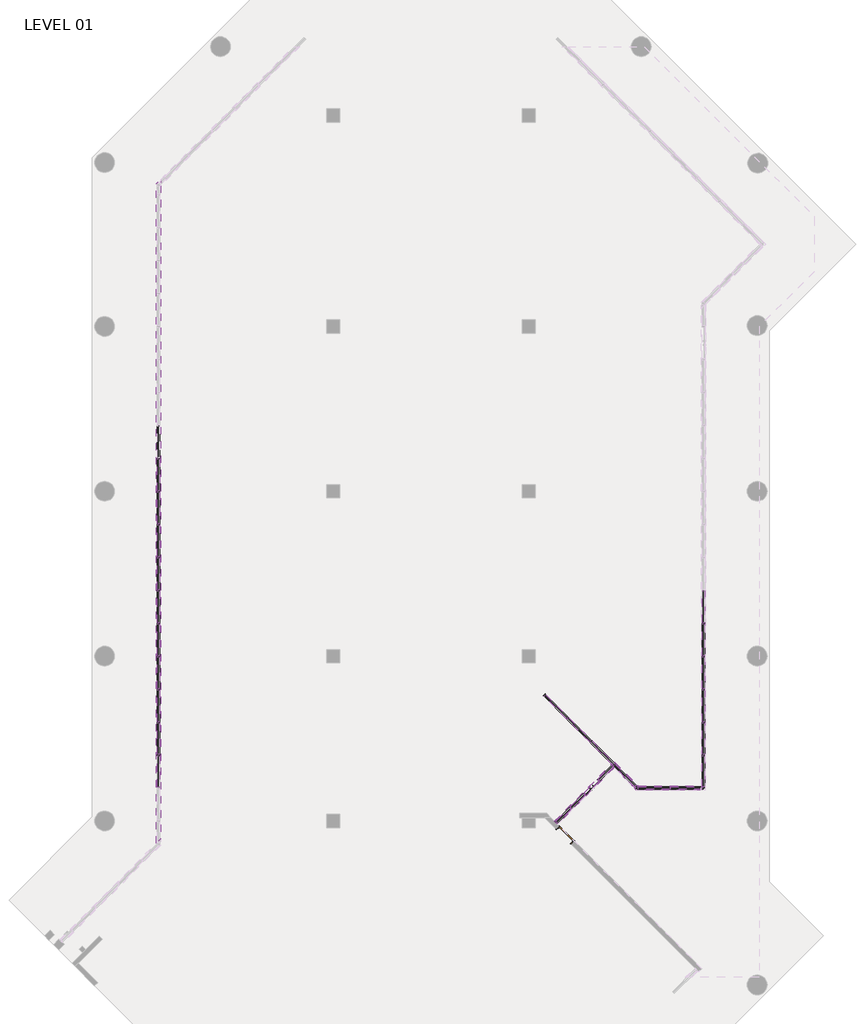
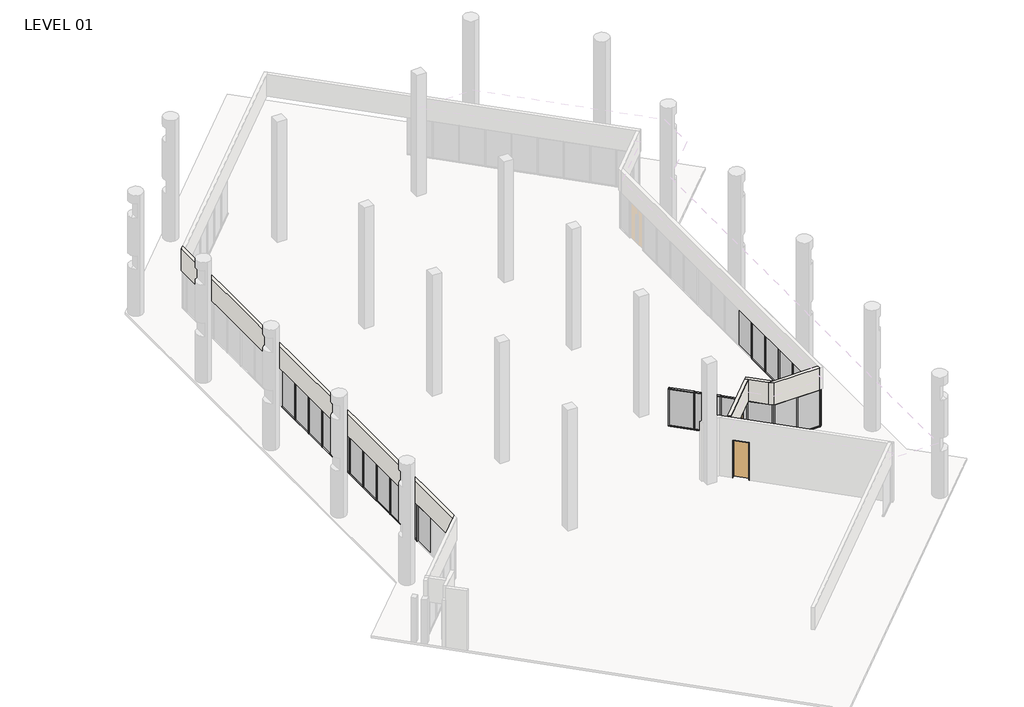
# One storey, part 3 of 24: 79 members, 26 plates, 4 walls, 2 doors.
"""IFC4 building model written with IfcOpenShell, lengths in millimetres."""

from ifc_helpers import new_model, si_unit, frame, origin, place, context, project, spatial, polyline, outline, extrude, faceted_brep, transform, mapped, element, save
from components import curtain_wall_dbl_glass_curtain_wall_dbl_glass_ad4eb2cc, door_ce57b39e, member_5247f267, member_e44af9ab, member_800970d4, member_cca1f9e6, member_ccf7f6e3, member_67d17f7f, member_d5560c68, member_35eb671e, member_74c9df78, plate_67294edd, plate_5a14c350, plate_4fb64caf, plate_748a28b9, plate_e3fa2cc7

model = new_model("IFC4")

# Units and contexts
model_context = context("Model", 3, world=origin())
ifc_project = project(units=[si_unit("LENGTHUNIT", "METRE", prefix="MILLI")], contexts=[model_context])

# Site, building, storey
site = spatial("IfcSite", under=ifc_project)
building = spatial("IfcBuilding", under=site)
storey = spatial("IfcBuildingStorey", under=building, Name="LEVEL 01", Elevation=0.0)

# Doors
placement = place(None, origin())
curtain_wall_dbl_glass_curtain_wall_dbl_glass_shape = curtain_wall_dbl_glass_curtain_wall_dbl_glass_ad4eb2cc(model_context)
element("IfcDoor", 1, ObjectType="Curtain Wall Dbl Glass : Curtain Wall Dbl Glass", at=placement, inside=storey, context=model_context, shape_type="MappedRepresentation", body=[
    mapped(curtain_wall_dbl_glass_curtain_wall_dbl_glass_shape, transform((-9768.7051367, 47649.2586372, 0.0), x_axis=(-0.7071067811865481, -0.7071067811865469, 0.0), y_axis=(0.7071067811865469, -0.7071067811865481, 0.0), z_axis=(0.0, 0.0, 1.0))),
])
door_shape = door_ce57b39e(model_context)
element("IfcDoor", 2, ObjectType="Single Flush-Full Flush-FF : 3'-0\" X 8'-6\"", at=placement, inside=storey, context=model_context, shape_type="MappedRepresentation", body=[
    mapped(door_shape, transform((-10987.4173728, 45432.4395471, 0.0), x_axis=(0.7071067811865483, -0.7071067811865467, 0.0), y_axis=(0.7071067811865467, 0.7071067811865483, 0.0), z_axis=(0.0, 0.0, 1.0))),
])

# Members
member_shape = member_5247f267(model_context)
element("IfcMember", 3, ObjectType="Rectangular Mullion : 2\" x 4.5\" rectangular", at=placement, inside=storey, context=model_context, shape_type="MappedRepresentation", body=[
    mapped(member_shape, transform((-29793.1847164, 52158.5675885, 2590.8), x_axis=(0.0, 0.0, 1.0), y_axis=(1.0, 0.0, 0.0), z_axis=(0.0, 1.0, 0.0))),
])
element("IfcMember", 4, ObjectType="Rectangular Mullion : 2\" x 4.5\" rectangular", at=placement, inside=storey, context=model_context, shape_type="MappedRepresentation", body=[
    mapped(member_shape, transform((-29793.1847164, 53682.5675885, 2590.8), x_axis=(0.0, 0.0, 1.0), y_axis=(1.0, 0.0, 0.0), z_axis=(0.0, 1.0, 0.0))),
])
element("IfcMember", 5, ObjectType="Rectangular Mullion : 2\" x 4.5\" rectangular", at=placement, inside=storey, context=model_context, shape_type="MappedRepresentation", body=[
    mapped(member_shape, transform((-29793.1847164, 58254.5675885, 2590.8), x_axis=(0.0, 0.0, 1.0), y_axis=(1.0, 0.0, 0.0), z_axis=(0.0, 1.0, 0.0))),
])
element("IfcMember", 6, ObjectType="Rectangular Mullion : 2\" x 4.5\" rectangular", at=placement, inside=storey, context=model_context, shape_type="MappedRepresentation", body=[
    mapped(member_shape, transform((-29793.1847164, 59778.5675885, 2590.8), x_axis=(0.0, 0.0, 1.0), y_axis=(1.0, 0.0, 0.0), z_axis=(0.0, 1.0, 0.0))),
])
element("IfcMember", 7, ObjectType="Rectangular Mullion : 2\" x 4.5\" rectangular", at=placement, inside=storey, context=model_context, shape_type="MappedRepresentation", body=[
    mapped(member_shape, transform((-29793.1847164, 62826.5675885, 2590.8), x_axis=(0.0, 0.0, 1.0), y_axis=(1.0, 0.0, 0.0), z_axis=(0.0, 1.0, 0.0))),
])
element("IfcMember", 8, ObjectType="Rectangular Mullion : 2\" x 4.5\" rectangular", at=placement, inside=storey, context=model_context, shape_type="MappedRepresentation", body=[
    mapped(member_shape, transform((-29793.1847164, 49110.5675885, 2590.8), x_axis=(0.0, 0.0, 1.0), y_axis=(1.0, 0.0, 0.0), z_axis=(0.0, 1.0, 0.0))),
])
element("IfcMember", 9, ObjectType="Rectangular Mullion : 2\" x 4.5\" rectangular", at=placement, inside=storey, context=model_context, shape_type="MappedRepresentation", body=[
    mapped(member_shape, transform((-29793.1847164, 50634.5675885, 2590.8), x_axis=(0.0, 0.0, 1.0), y_axis=(1.0, 0.0, 0.0), z_axis=(0.0, 1.0, 0.0))),
])
element("IfcMember", 10, ObjectType="Rectangular Mullion : 2\" x 4.5\" rectangular", at=placement, inside=storey, context=model_context, shape_type="MappedRepresentation", body=[
    mapped(member_shape, transform((-29793.1847164, 55206.5675885, 2590.8), x_axis=(0.0, 0.0, 1.0), y_axis=(1.0, 0.0, 0.0), z_axis=(0.0, 1.0, 0.0))),
])
element("IfcMember", 11, ObjectType="Rectangular Mullion : 2\" x 4.5\" rectangular", at=placement, inside=storey, context=model_context, shape_type="MappedRepresentation", body=[
    mapped(member_shape, transform((-29793.1847164, 56730.5675885, 2590.8), x_axis=(0.0, 0.0, 1.0), y_axis=(1.0, 0.0, 0.0), z_axis=(0.0, 1.0, 0.0))),
])
element("IfcMember", 12, ObjectType="Rectangular Mullion : 2\" x 4.5\" rectangular", at=placement, inside=storey, context=model_context, shape_type="MappedRepresentation", body=[
    mapped(member_shape, transform((-29793.1847164, 61302.5675885, 2590.8), x_axis=(0.0, 0.0, 1.0), y_axis=(1.0, 0.0, 0.0), z_axis=(0.0, 1.0, 0.0))),
])
element("IfcMember", 13, ObjectType="Rectangular Mullion : 2\" x 4.5\" rectangular", at=placement, inside=storey, context=model_context, shape_type="MappedRepresentation", body=[
    mapped(member_shape, transform((-4602.7347164, 53733.3675885, 2590.8), x_axis=(0.0, 0.0, 1.0), y_axis=(-1.0, 0.0, 0.0), z_axis=(0.0, -1.0, 0.0))),
])
element("IfcMember", 14, ObjectType="Rectangular Mullion : 2\" x 4.5\" rectangular", at=placement, inside=storey, context=model_context, shape_type="MappedRepresentation", body=[
    mapped(member_shape, transform((-4602.7347164, 52209.3675885, 2590.8), x_axis=(0.0, 0.0, 1.0), y_axis=(-1.0, 0.0, 0.0), z_axis=(0.0, -1.0, 0.0))),
])
element("IfcMember", 15, ObjectType="Rectangular Mullion : 2\" x 4.5\" rectangular", at=placement, inside=storey, context=model_context, shape_type="MappedRepresentation", body=[
    mapped(member_shape, transform((-4602.7347164, 49161.3675885, 2590.8), x_axis=(0.0, 0.0, 1.0), y_axis=(-1.0, 0.0, 0.0), z_axis=(0.0, -1.0, 0.0))),
])
element("IfcMember", 16, ObjectType="Rectangular Mullion : 2\" x 4.5\" rectangular", at=placement, inside=storey, context=model_context, shape_type="MappedRepresentation", body=[
    mapped(member_shape, transform((-4602.7347164, 55257.3675885, 2590.8), x_axis=(0.0, 0.0, 1.0), y_axis=(-1.0, 0.0, 0.0), z_axis=(0.0, -1.0, 0.0))),
])
element("IfcMember", 17, ObjectType="Rectangular Mullion : 2\" x 4.5\" rectangular", at=placement, inside=storey, context=model_context, shape_type="MappedRepresentation", body=[
    mapped(member_shape, transform((-4602.7347164, 50685.3675885, 2590.8), x_axis=(0.0, 0.0, 1.0), y_axis=(-1.0, 0.0, 0.0), z_axis=(0.0, -1.0, 0.0))),
])
element("IfcMember", 18, ObjectType="Rectangular Mullion : 2\" x 4.5\" rectangular", at=placement, inside=storey, context=model_context, shape_type="MappedRepresentation", body=[
    mapped(member_shape, transform((-10865.6664077, 50826.8992799, 2590.8), x_axis=(0.0, 0.0, 1.0), y_axis=(0.7071067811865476, 0.7071067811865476, 0.0), z_axis=(-0.7071067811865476, 0.7071067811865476, 0.0))),
])
element("IfcMember", 19, ObjectType="Rectangular Mullion : 2\" x 4.5\" rectangular", at=placement, inside=storey, context=model_context, shape_type="MappedRepresentation", body=[
    mapped(member_shape, transform((-9788.0356732, 49749.2685453, 2590.8), x_axis=(0.0, 0.0, 1.0), y_axis=(0.7071067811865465, 0.7071067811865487, 0.0), z_axis=(-0.7071067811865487, 0.7071067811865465, 0.0))),
])
element("IfcMember", 20, ObjectType="Rectangular Mullion : 2\" x 4.5\" rectangular", at=placement, inside=storey, context=model_context, shape_type="MappedRepresentation", body=[
    mapped(member_shape, transform((-29793.1847164, 52209.3675885, 0.0), x_axis=(0.0, 0.0, -1.0), y_axis=(1.0, 0.0, 0.0), z_axis=(0.0, -1.0, 0.0))),
])
element("IfcMember", 21, ObjectType="Rectangular Mullion : 2\" x 4.5\" rectangular", at=placement, inside=storey, context=model_context, shape_type="MappedRepresentation", body=[
    mapped(member_shape, transform((-29793.1847164, 53733.3675885, 0.0), x_axis=(0.0, 0.0, -1.0), y_axis=(1.0, 0.0, 0.0), z_axis=(0.0, -1.0, 0.0))),
])
element("IfcMember", 22, ObjectType="Rectangular Mullion : 2\" x 4.5\" rectangular", at=placement, inside=storey, context=model_context, shape_type="MappedRepresentation", body=[
    mapped(member_shape, transform((-29793.1847164, 58305.3675885, 0.0), x_axis=(0.0, 0.0, -1.0), y_axis=(1.0, 0.0, 0.0), z_axis=(0.0, -1.0, 0.0))),
])
element("IfcMember", 23, ObjectType="Rectangular Mullion : 2\" x 4.5\" rectangular", at=placement, inside=storey, context=model_context, shape_type="MappedRepresentation", body=[
    mapped(member_shape, transform((-29793.1847164, 59829.3675885, 0.0), x_axis=(0.0, 0.0, -1.0), y_axis=(1.0, 0.0, 0.0), z_axis=(0.0, -1.0, 0.0))),
])
element("IfcMember", 24, ObjectType="Rectangular Mullion : 2\" x 4.5\" rectangular", at=placement, inside=storey, context=model_context, shape_type="MappedRepresentation", body=[
    mapped(member_shape, transform((-29793.1847164, 62877.3675885, 0.0), x_axis=(0.0, 0.0, -1.0), y_axis=(1.0, 0.0, 0.0), z_axis=(0.0, -1.0, 0.0))),
])
element("IfcMember", 25, ObjectType="Rectangular Mullion : 2\" x 4.5\" rectangular", at=placement, inside=storey, context=model_context, shape_type="MappedRepresentation", body=[
    mapped(member_shape, transform((-29793.1847164, 49161.3675885, 0.0), x_axis=(0.0, 0.0, -1.0), y_axis=(1.0, 0.0, 0.0), z_axis=(0.0, -1.0, 0.0))),
])
element("IfcMember", 26, ObjectType="Rectangular Mullion : 2\" x 4.5\" rectangular", at=placement, inside=storey, context=model_context, shape_type="MappedRepresentation", body=[
    mapped(member_shape, transform((-29793.1847164, 50685.3675885, 0.0), x_axis=(0.0, 0.0, -1.0), y_axis=(1.0, 0.0, 0.0), z_axis=(0.0, -1.0, 0.0))),
])
element("IfcMember", 27, ObjectType="Rectangular Mullion : 2\" x 4.5\" rectangular", at=placement, inside=storey, context=model_context, shape_type="MappedRepresentation", body=[
    mapped(member_shape, transform((-29793.1847164, 55257.3675885, 0.0), x_axis=(0.0, 0.0, -1.0), y_axis=(1.0, 0.0, 0.0), z_axis=(0.0, -1.0, 0.0))),
])
element("IfcMember", 28, ObjectType="Rectangular Mullion : 2\" x 4.5\" rectangular", at=placement, inside=storey, context=model_context, shape_type="MappedRepresentation", body=[
    mapped(member_shape, transform((-29793.1847164, 56781.3675885, 0.0), x_axis=(0.0, 0.0, -1.0), y_axis=(1.0, 0.0, 0.0), z_axis=(0.0, -1.0, 0.0))),
])
element("IfcMember", 29, ObjectType="Rectangular Mullion : 2\" x 4.5\" rectangular", at=placement, inside=storey, context=model_context, shape_type="MappedRepresentation", body=[
    mapped(member_shape, transform((-29793.1847164, 61353.3675885, 0.0), x_axis=(0.0, 0.0, -1.0), y_axis=(1.0, 0.0, 0.0), z_axis=(0.0, -1.0, 0.0))),
])
element("IfcMember", 30, ObjectType="Rectangular Mullion : 2\" x 4.5\" rectangular", at=placement, inside=storey, context=model_context, shape_type="MappedRepresentation", body=[
    mapped(member_shape, transform((-4602.7347164, 53682.5675885, 0.0), x_axis=(0.0, 0.0, -1.0), y_axis=(-1.0, 0.0, 0.0), z_axis=(0.0, 1.0, 0.0))),
])
element("IfcMember", 31, ObjectType="Rectangular Mullion : 2\" x 4.5\" rectangular", at=placement, inside=storey, context=model_context, shape_type="MappedRepresentation", body=[
    mapped(member_shape, transform((-4602.7347164, 52158.5675885, 0.0), x_axis=(0.0, 0.0, -1.0), y_axis=(-1.0, 0.0, 0.0), z_axis=(0.0, 1.0, 0.0))),
])
element("IfcMember", 32, ObjectType="Rectangular Mullion : 2\" x 4.5\" rectangular", at=placement, inside=storey, context=model_context, shape_type="MappedRepresentation", body=[
    mapped(member_shape, transform((-4602.7347164, 55206.5675885, 0.0), x_axis=(0.0, 0.0, -1.0), y_axis=(-1.0, 0.0, 0.0), z_axis=(0.0, 1.0, 0.0))),
])
element("IfcMember", 33, ObjectType="Rectangular Mullion : 2\" x 4.5\" rectangular", at=placement, inside=storey, context=model_context, shape_type="MappedRepresentation", body=[
    mapped(member_shape, transform((-4602.7347164, 50634.5675885, 0.0), x_axis=(0.0, 0.0, -1.0), y_axis=(-1.0, 0.0, 0.0), z_axis=(0.0, 1.0, 0.0))),
])
element("IfcMember", 34, ObjectType="Rectangular Mullion : 2\" x 4.5\" rectangular", at=placement, inside=storey, context=model_context, shape_type="MappedRepresentation", body=[
    mapped(member_shape, transform((-8746.3259632, 48707.5588353, 0.0), x_axis=(0.0, 0.0, -1.0), y_axis=(0.7071067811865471, 0.7071067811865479, 0.0), z_axis=(0.7071067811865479, -0.7071067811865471, 0.0))),
])
element("IfcMember", 35, ObjectType="Rectangular Mullion : 2\" x 4.5\" rectangular", at=placement, inside=storey, context=model_context, shape_type="MappedRepresentation", body=[
    mapped(member_shape, transform((-9823.9566977, 49785.1895698, 0.0), x_axis=(0.0, 0.0, -1.0), y_axis=(0.7071067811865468, 0.7071067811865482, 0.0), z_axis=(0.7071067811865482, -0.7071067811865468, 0.0))),
])
member_2_shape = member_e44af9ab(model_context)
element("IfcMember", 36, ObjectType="Rectangular Mullion : 2\" x 4.5\" rectangular", at=placement, inside=storey, context=model_context, shape_type="MappedRepresentation", body=[
    mapped(member_2_shape, transform((-29793.1847164, 52183.9675885, 0.0), x_axis=(0.0, 1.0, 0.0), y_axis=(1.0, 0.0, 0.0), z_axis=(0.0, 0.0, -1.0))),
])
element("IfcMember", 37, ObjectType="Rectangular Mullion : 2\" x 4.5\" rectangular", at=placement, inside=storey, context=model_context, shape_type="MappedRepresentation", body=[
    mapped(member_2_shape, transform((-29793.1847164, 53707.9675885, 0.0), x_axis=(0.0, 1.0, 0.0), y_axis=(1.0, 0.0, 0.0), z_axis=(0.0, 0.0, -1.0))),
])
element("IfcMember", 38, ObjectType="Rectangular Mullion : 2\" x 4.5\" rectangular", at=placement, inside=storey, context=model_context, shape_type="MappedRepresentation", body=[
    mapped(member_2_shape, transform((-29793.1847164, 58279.9675885, 0.0), x_axis=(0.0, 1.0, 0.0), y_axis=(1.0, 0.0, 0.0), z_axis=(0.0, 0.0, -1.0))),
])
element("IfcMember", 39, ObjectType="Rectangular Mullion : 2\" x 4.5\" rectangular", at=placement, inside=storey, context=model_context, shape_type="MappedRepresentation", body=[
    mapped(member_2_shape, transform((-29793.1847164, 59803.9675885, 0.0), x_axis=(0.0, 1.0, 0.0), y_axis=(1.0, 0.0, 0.0), z_axis=(0.0, 0.0, -1.0))),
])
element("IfcMember", 40, ObjectType="Rectangular Mullion : 2\" x 4.5\" rectangular", at=placement, inside=storey, context=model_context, shape_type="MappedRepresentation", body=[
    mapped(member_2_shape, transform((-29793.1847164, 62851.9675885, 0.0), x_axis=(0.0, 1.0, 0.0), y_axis=(1.0, 0.0, 0.0), z_axis=(0.0, 0.0, -1.0))),
])
element("IfcMember", 41, ObjectType="Rectangular Mullion : 2\" x 4.5\" rectangular", at=placement, inside=storey, context=model_context, shape_type="MappedRepresentation", body=[
    mapped(member_2_shape, transform((-29793.1847164, 49135.9675885, 0.0), x_axis=(0.0, 1.0, 0.0), y_axis=(1.0, 0.0, 0.0), z_axis=(0.0, 0.0, -1.0))),
])
element("IfcMember", 42, ObjectType="Rectangular Mullion : 2\" x 4.5\" rectangular", at=placement, inside=storey, context=model_context, shape_type="MappedRepresentation", body=[
    mapped(member_2_shape, transform((-29793.1847164, 50659.9675885, 0.0), x_axis=(0.0, 1.0, 0.0), y_axis=(1.0, 0.0, 0.0), z_axis=(0.0, 0.0, -1.0))),
])
element("IfcMember", 43, ObjectType="Rectangular Mullion : 2\" x 4.5\" rectangular", at=placement, inside=storey, context=model_context, shape_type="MappedRepresentation", body=[
    mapped(member_2_shape, transform((-29793.1847164, 55231.9675885, 0.0), x_axis=(0.0, 1.0, 0.0), y_axis=(1.0, 0.0, 0.0), z_axis=(0.0, 0.0, -1.0))),
])
element("IfcMember", 44, ObjectType="Rectangular Mullion : 2\" x 4.5\" rectangular", at=placement, inside=storey, context=model_context, shape_type="MappedRepresentation", body=[
    mapped(member_2_shape, transform((-29793.1847164, 56755.9675885, 0.0), x_axis=(0.0, 1.0, 0.0), y_axis=(1.0, 0.0, 0.0), z_axis=(0.0, 0.0, -1.0))),
])
element("IfcMember", 45, ObjectType="Rectangular Mullion : 2\" x 4.5\" rectangular", at=placement, inside=storey, context=model_context, shape_type="MappedRepresentation", body=[
    mapped(member_2_shape, transform((-29793.1847164, 61327.9675885, 0.0), x_axis=(0.0, 1.0, 0.0), y_axis=(1.0, 0.0, 0.0), z_axis=(0.0, 0.0, -1.0))),
])
element("IfcMember", 46, ObjectType="Rectangular Mullion : 2\" x 4.5\" rectangular", at=placement, inside=storey, context=model_context, shape_type="MappedRepresentation", body=[
    mapped(member_2_shape, transform((-4602.7347164, 53707.9675885, 0.0), x_axis=(0.0, -1.0, 0.0), y_axis=(-1.0, 0.0, 0.0), z_axis=(0.0, 0.0, -1.0))),
])
element("IfcMember", 47, ObjectType="Rectangular Mullion : 2\" x 4.5\" rectangular", at=placement, inside=storey, context=model_context, shape_type="MappedRepresentation", body=[
    mapped(member_2_shape, transform((-4602.7347164, 52183.9675885, 0.0), x_axis=(0.0, -1.0, 0.0), y_axis=(-1.0, 0.0, 0.0), z_axis=(0.0, 0.0, -1.0))),
])
element("IfcMember", 48, ObjectType="Rectangular Mullion : 2\" x 4.5\" rectangular", at=placement, inside=storey, context=model_context, shape_type="MappedRepresentation", body=[
    mapped(member_2_shape, transform((-4602.7347164, 49135.9675885, 0.0), x_axis=(0.0, -1.0, 0.0), y_axis=(-1.0, 0.0, 0.0), z_axis=(0.0, 0.0, -1.0))),
])
element("IfcMember", 49, ObjectType="Rectangular Mullion : 2\" x 4.5\" rectangular", at=placement, inside=storey, context=model_context, shape_type="MappedRepresentation", body=[
    mapped(member_2_shape, transform((-4602.7347164, 55231.9675885, 0.0), x_axis=(0.0, -1.0, 0.0), y_axis=(-1.0, 0.0, 0.0), z_axis=(0.0, 0.0, -1.0))),
])
element("IfcMember", 50, ObjectType="Rectangular Mullion : 2\" x 4.5\" rectangular", at=placement, inside=storey, context=model_context, shape_type="MappedRepresentation", body=[
    mapped(member_2_shape, transform((-4602.7347164, 50659.9675885, 0.0), x_axis=(0.0, -1.0, 0.0), y_axis=(-1.0, 0.0, 0.0), z_axis=(0.0, 0.0, -1.0))),
])
element("IfcMember", 51, ObjectType="Rectangular Mullion : 2\" x 4.5\" rectangular", at=placement, inside=storey, context=model_context, shape_type="MappedRepresentation", body=[
    mapped(member_2_shape, transform((-6126.7347164, 47611.9675885, 0.0), x_axis=(-1.0, 0.0, 0.0), y_axis=(0.0, 1.0, 0.0), z_axis=(0.0, 0.0, -1.0))),
])
element("IfcMember", 52, ObjectType="Rectangular Mullion : 2\" x 4.5\" rectangular", at=placement, inside=storey, context=model_context, shape_type="MappedRepresentation", body=[
    mapped(member_2_shape, transform((-8728.3654509, 48689.598323, 0.0), x_axis=(-0.7071067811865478, 0.7071067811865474, 0.0), y_axis=(0.7071067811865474, 0.7071067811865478, 0.0), z_axis=(0.0, 0.0, -1.0))),
])
element("IfcMember", 53, ObjectType="Rectangular Mullion : 2\" x 4.5\" rectangular", at=placement, inside=storey, context=model_context, shape_type="MappedRepresentation", body=[
    mapped(member_2_shape, transform((-10883.62692, 50844.8597921, 0.0), x_axis=(-0.7071067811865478, 0.7071067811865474, 0.0), y_axis=(0.7071067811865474, 0.7071067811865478, 0.0), z_axis=(0.0, 0.0, -1.0))),
])
element("IfcMember", 54, ObjectType="Rectangular Mullion : 2\" x 4.5\" rectangular", at=placement, inside=storey, context=model_context, shape_type="MappedRepresentation", body=[
    mapped(member_2_shape, transform((-9805.9961855, 49767.2290576, 0.0), x_axis=(-0.7071067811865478, 0.7071067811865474, 0.0), y_axis=(0.7071067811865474, 0.7071067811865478, 0.0), z_axis=(0.0, 0.0, -1.0))),
])
element("IfcMember", 55, ObjectType="Rectangular Mullion : 2\" x 4.5\" rectangular", at=placement, inside=storey, context=model_context, shape_type="MappedRepresentation", body=[
    mapped(member_2_shape, transform((-9445.7075963, 47972.2561777, 0.0), x_axis=(-0.7071067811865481, -0.7071067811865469, 0.0), y_axis=(-0.7071067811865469, 0.7071067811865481, 0.0), z_axis=(0.0, 0.0, -1.0))),
])
element("IfcMember", 56, ObjectType="Rectangular Mullion : 2\" x 4.5\" rectangular", at=placement, inside=storey, context=model_context, shape_type="MappedRepresentation", body=[
    mapped(member_2_shape, transform((-10738.8644778, 46679.0992962, 0.0), x_axis=(-0.7071067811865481, -0.7071067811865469, 0.0), y_axis=(-0.7071067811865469, 0.7071067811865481, 0.0), z_axis=(0.0, 0.0, -1.0))),
])
member_3_shape = member_800970d4(model_context)
element("IfcMember", 57, ObjectType="Rectangular Mullion : 2\" x 4.5\" rectangular", at=placement, inside=storey, context=model_context, shape_type="MappedRepresentation", body=[
    mapped(member_3_shape, transform((-4602.7347164, 47611.9675885, 0.0), x_axis=(0.0, -1.0, 0.0), y_axis=(-1.0, 0.0, 0.0), z_axis=(0.0, 0.0, -1.0))),
])
element("IfcMember", 58, ObjectType="Rectangular Mullion : 2\" x 4.5\" rectangular", at=placement, inside=storey, context=model_context, shape_type="MappedRepresentation", body=[
    mapped(member_3_shape, transform((-7650.7347164, 47611.9675885, 0.0), x_axis=(-1.0, 0.0, 0.0), y_axis=(0.0, 1.0, 0.0), z_axis=(0.0, 0.0, -1.0))),
])
element("IfcMember", 59, ObjectType="Rectangular Mullion : 2\" x 4.5\" rectangular", at=placement, inside=storey, context=model_context, shape_type="MappedRepresentation", body=[
    mapped(member_3_shape, transform((-11961.2576545, 51922.4905266, 0.0), x_axis=(-0.7071067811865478, 0.7071067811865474, 0.0), y_axis=(0.7071067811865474, 0.7071067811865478, 0.0), z_axis=(0.0, 0.0, -1.0))),
])
element("IfcMember", 60, ObjectType="Rectangular Mullion : 2\" x 4.5\" rectangular", at=placement, inside=storey, context=model_context, shape_type="MappedRepresentation", body=[
    mapped(member_3_shape, transform((-11414.6287509, 46003.3350231, 0.0), x_axis=(-0.7071067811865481, -0.7071067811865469, 0.0), y_axis=(-0.7071067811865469, 0.7071067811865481, 0.0), z_axis=(0.0, 0.0, -1.0))),
])
element("IfcMember", 61, ObjectType="Rectangular Mullion : 2\" x 4.5\" rectangular", at=placement, inside=storey, context=model_context, shape_type="MappedRepresentation", body=[
    mapped(member_3_shape, transform((-4602.7347164, 47611.9675885, 2590.8), x_axis=(1.0, 0.0, 0.0), y_axis=(0.0, 1.0, 0.0), z_axis=(0.0, 0.0, 1.0))),
])
element("IfcMember", 62, ObjectType="Rectangular Mullion : 2\" x 4.5\" rectangular", at=placement, inside=storey, context=model_context, shape_type="MappedRepresentation", body=[
    mapped(member_3_shape, transform((-7650.7347164, 47611.9675885, 2590.8), x_axis=(0.7071067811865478, -0.7071067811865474, 0.0), y_axis=(0.7071067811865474, 0.7071067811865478, 0.0), z_axis=(0.0, 0.0, 1.0))),
])
element("IfcMember", 63, ObjectType="Rectangular Mullion : 2\" x 4.5\" rectangular", at=placement, inside=storey, context=model_context, shape_type="MappedRepresentation", body=[
    mapped(member_3_shape, transform((-8768.7766035, 48649.1871705, 2590.8), x_axis=(0.7071067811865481, 0.7071067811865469, 0.0), y_axis=(-0.7071067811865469, 0.7071067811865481, 0.0), z_axis=(0.0, 0.0, 1.0))),
])
member_4_shape = member_cca1f9e6(model_context)
element("IfcMember", 64, ObjectType="Rectangular Mullion : 2\" x 4.5\" rectangular", at=placement, inside=storey, context=model_context, shape_type="MappedRepresentation", body=[
    mapped(member_4_shape, transform((-4602.7347164, 47662.7675885, 2590.8), x_axis=(0.0, 0.0, 1.0), y_axis=(-1.0, 0.0, 0.0), z_axis=(0.0, -1.0, 0.0))),
])
element("IfcMember", 65, ObjectType="Rectangular Mullion : 2\" x 4.5\" rectangular", at=placement, inside=storey, context=model_context, shape_type="MappedRepresentation", body=[
    mapped(member_4_shape, transform((-7599.9347164, 47611.9675885, 2590.8), x_axis=(0.0, 0.0, 1.0), y_axis=(0.0, 1.0, 0.0), z_axis=(-1.0, 0.0, 0.0))),
])
element("IfcMember", 66, ObjectType="Rectangular Mullion : 2\" x 4.5\" rectangular", at=placement, inside=storey, context=model_context, shape_type="MappedRepresentation", body=[
    mapped(member_4_shape, transform((-6101.3347164, 47611.9675885, 2590.8), x_axis=(0.0, 0.0, 1.0), y_axis=(0.0, 1.0, 0.0), z_axis=(-1.0, 0.0, 0.0))),
])
element("IfcMember", 67, ObjectType="Rectangular Mullion : 2\" x 4.5\" rectangular", at=placement, inside=storey, context=model_context, shape_type="MappedRepresentation", body=[
    mapped(member_4_shape, transform((-11925.33663, 51886.5695021, 2590.8), x_axis=(0.0, 0.0, 1.0), y_axis=(0.7071067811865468, 0.7071067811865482, 0.0), z_axis=(-0.7071067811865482, 0.7071067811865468, 0.0))),
])
element("IfcMember", 68, ObjectType="Rectangular Mullion : 2\" x 4.5\" rectangular", at=placement, inside=storey, context=model_context, shape_type="MappedRepresentation", body=[
    mapped(member_4_shape, transform((-8710.4049387, 48671.6378108, 2590.8), x_axis=(0.0, 0.0, 1.0), y_axis=(0.7071067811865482, 0.7071067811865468, 0.0), z_axis=(-0.7071067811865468, 0.7071067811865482, 0.0))),
])
member_5_shape = member_ccf7f6e3(model_context)
element("IfcMember", 69, ObjectType="Rectangular Mullion : 2\" x 4.5\" rectangular", at=placement, inside=storey, context=model_context, shape_type="MappedRepresentation", body=[
    mapped(member_5_shape, transform((-4653.5347164, 47611.9675885, 0.0), x_axis=(0.0, 0.0, -1.0), y_axis=(0.0, 1.0, 0.0), z_axis=(1.0, 0.0, 0.0))),
])
element("IfcMember", 70, ObjectType="Rectangular Mullion : 2\" x 4.5\" rectangular", at=placement, inside=storey, context=model_context, shape_type="MappedRepresentation", body=[
    mapped(member_5_shape, transform((-4602.7347164, 49110.5675885, 0.0), x_axis=(0.0, 0.0, -1.0), y_axis=(-1.0, 0.0, 0.0), z_axis=(0.0, 1.0, 0.0))),
])
element("IfcMember", 71, ObjectType="Rectangular Mullion : 2\" x 4.5\" rectangular", at=placement, inside=storey, context=model_context, shape_type="MappedRepresentation", body=[
    mapped(member_5_shape, transform((-6152.1347164, 47611.9675885, 0.0), x_axis=(0.0, 0.0, -1.0), y_axis=(0.0, 1.0, 0.0), z_axis=(1.0, 0.0, 0.0))),
])
element("IfcMember", 72, ObjectType="Rectangular Mullion : 2\" x 4.5\" rectangular", at=placement, inside=storey, context=model_context, shape_type="MappedRepresentation", body=[
    mapped(member_5_shape, transform((-7686.6557409, 47647.888613, 0.0), x_axis=(0.0, 0.0, -1.0), y_axis=(0.7071067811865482, 0.7071067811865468, 0.0), z_axis=(0.7071067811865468, -0.7071067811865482, 0.0))),
])
element("IfcMember", 73, ObjectType="Rectangular Mullion : 2\" x 4.5\" rectangular", at=placement, inside=storey, context=model_context, shape_type="MappedRepresentation", body=[
    mapped(member_5_shape, transform((-10901.5874322, 50862.8203043, 0.0), x_axis=(0.0, 0.0, -1.0), y_axis=(0.7071067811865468, 0.7071067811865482, 0.0), z_axis=(0.7071067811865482, -0.7071067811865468, 0.0))),
])
member_6_shape = member_67d17f7f(model_context)
element("IfcMember", 74, ObjectType="Rectangular Mullion : 2\" x 4.5\" rectangular", at=placement, inside=storey, context=model_context, shape_type="MappedRepresentation", body=[
    mapped(member_6_shape, transform((-11378.7077264, 46039.2560476, 2590.8), x_axis=(0.0, 0.0, 1.0), y_axis=(-0.7071067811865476, 0.7071067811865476, 0.0), z_axis=(-0.7071067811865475, -0.7071067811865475, 0.0))),
])
member_7_shape = member_d5560c68(model_context)
element("IfcMember", 75, ObjectType="Rectangular Mullion : 2\" x 4.5\" rectangular", at=placement, inside=storey, context=model_context, shape_type="MappedRepresentation", body=[
    mapped(member_7_shape, transform((-8804.697628, 48613.266146, 0.0), x_axis=(0.0, 0.0, -1.0), y_axis=(-0.7071067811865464, 0.7071067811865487, 0.0), z_axis=(0.7071067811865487, 0.7071067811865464, 0.0))),
])
element("IfcMember", 76, ObjectType="Rectangular Mullion : 2\" x 4.5\" rectangular", at=placement, inside=storey, context=model_context, shape_type="MappedRepresentation", body=[
    mapped(member_7_shape, transform((-9427.7470841, 47990.2166899, 2590.8), x_axis=(0.0, 0.0, 1.0), y_axis=(-0.7071067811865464, 0.7071067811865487, 0.0), z_axis=(-0.7071067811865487, -0.7071067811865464, 0.0))),
])
element("IfcMember", 77, ObjectType="Rectangular Mullion : 2\" x 4.5\" rectangular", at=placement, inside=storey, context=model_context, shape_type="MappedRepresentation", body=[
    mapped(member_6_shape, transform((-10756.82499, 46661.138784, 0.0), x_axis=(0.0, 0.0, -1.0), y_axis=(-0.7071067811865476, 0.7071067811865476, 0.0), z_axis=(0.7071067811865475, 0.7071067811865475, 0.0))),
])
element("IfcMember", 78, ObjectType="Rectangular Mullion : 2\" x 4.5\" rectangular", at=placement, inside=storey, context=model_context, shape_type="MappedRepresentation", body=[
    mapped(member_2_shape, transform((-10091.7026772, 47326.2610968, 0.0), x_axis=(-0.7071067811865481, -0.7071067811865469, 0.0), y_axis=(-0.7071067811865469, 0.7071067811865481, 0.0), z_axis=(0.0, 0.0, -1.0))),
])
member_8_shape = member_35eb671e(model_context)
element("IfcMember", 79, ObjectType="Rectangular Mullion : 2\" x 4.5\" rectangular", at=placement, inside=storey, context=model_context, shape_type="MappedRepresentation", body=[
    mapped(member_8_shape, transform((-10720.9039655, 46697.0598085, 2590.8), x_axis=(0.0, 0.0, 1.0), y_axis=(-0.7071067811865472, 0.7071067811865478, 0.0), z_axis=(-0.7071067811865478, -0.7071067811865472, 0.0))),
])
member_9_shape = member_74c9df78(model_context)
element("IfcMember", 80, ObjectType="Rectangular Mullion : 2\" x 4.5\" rectangular", at=placement, inside=storey, context=model_context, shape_type="MappedRepresentation", body=[
    mapped(member_9_shape, transform((-10073.7421649, 47344.221609, 2590.8), x_axis=(0.0, 0.0, 1.0), y_axis=(-0.7071067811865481, 0.707106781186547, 0.0), z_axis=(-0.707106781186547, -0.7071067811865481, 0.0))),
])
element("IfcMember", 81, ObjectType="Rectangular Mullion : 2\" x 4.5\" rectangular", at=placement, inside=storey, context=model_context, shape_type="MappedRepresentation", body=[
    mapped(member_8_shape, transform((-10109.6631894, 47308.3005846, 0.0), x_axis=(0.0, 0.0, -1.0), y_axis=(-0.7071067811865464, 0.7071067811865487, 0.0), z_axis=(0.7071067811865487, 0.7071067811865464, 0.0))),
])

# Plates
plate_shape = plate_67294edd(model_context)
element("IfcPlate", 82, ObjectType="System Panel : 1/4\" Glass", at=placement, inside=storey, context=model_context, shape_type="MappedRepresentation", body=[
    mapped(plate_shape, transform((-29793.1847164, 48373.9675885, 50.8), x_axis=(0.0, 1.0, 0.0), y_axis=(-1.0, 0.0, 0.0), z_axis=(0.0, 0.0, 1.0))),
])
element("IfcPlate", 83, ObjectType="System Panel : 1/4\" Glass", at=placement, inside=storey, context=model_context, shape_type="MappedRepresentation", body=[
    mapped(plate_shape, transform((-29793.1847164, 52945.9675885, 50.8), x_axis=(0.0, 1.0, 0.0), y_axis=(-1.0, 0.0, 0.0), z_axis=(0.0, 0.0, 1.0))),
])
element("IfcPlate", 84, ObjectType="System Panel : 1/4\" Glass", at=placement, inside=storey, context=model_context, shape_type="MappedRepresentation", body=[
    mapped(plate_shape, transform((-29793.1847164, 54469.9675885, 50.8), x_axis=(0.0, 1.0, 0.0), y_axis=(-1.0, 0.0, 0.0), z_axis=(0.0, 0.0, 1.0))),
])
element("IfcPlate", 85, ObjectType="System Panel : 1/4\" Glass", at=placement, inside=storey, context=model_context, shape_type="MappedRepresentation", body=[
    mapped(plate_shape, transform((-29793.1847164, 59041.9675885, 50.8), x_axis=(0.0, 1.0, 0.0), y_axis=(-1.0, 0.0, 0.0), z_axis=(0.0, 0.0, 1.0))),
])
element("IfcPlate", 86, ObjectType="System Panel : 1/4\" Glass", at=placement, inside=storey, context=model_context, shape_type="MappedRepresentation", body=[
    mapped(plate_shape, transform((-29793.1847164, 60565.9675885, 50.8), x_axis=(0.0, 1.0, 0.0), y_axis=(-1.0, 0.0, 0.0), z_axis=(0.0, 0.0, 1.0))),
])
element("IfcPlate", 87, ObjectType="System Panel : 1/4\" Glass", at=placement, inside=storey, context=model_context, shape_type="MappedRepresentation", body=[
    mapped(plate_shape, transform((-29793.1847164, 63613.9675885, 50.8), x_axis=(0.0, 1.0, 0.0), y_axis=(-1.0, 0.0, 0.0), z_axis=(0.0, 0.0, 1.0))),
])
element("IfcPlate", 88, ObjectType="System Panel : 1/4\" Glass", at=placement, inside=storey, context=model_context, shape_type="MappedRepresentation", body=[
    mapped(plate_shape, transform((-29793.1847164, 49897.9675885, 50.8), x_axis=(0.0, 1.0, 0.0), y_axis=(-1.0, 0.0, 0.0), z_axis=(0.0, 0.0, 1.0))),
])
element("IfcPlate", 89, ObjectType="System Panel : 1/4\" Glass", at=placement, inside=storey, context=model_context, shape_type="MappedRepresentation", body=[
    mapped(plate_shape, transform((-29793.1847164, 51421.9675885, 50.8), x_axis=(0.0, 1.0, 0.0), y_axis=(-1.0, 0.0, 0.0), z_axis=(0.0, 0.0, 1.0))),
])
element("IfcPlate", 90, ObjectType="System Panel : 1/4\" Glass", at=placement, inside=storey, context=model_context, shape_type="MappedRepresentation", body=[
    mapped(plate_shape, transform((-29793.1847164, 55993.9675885, 50.8), x_axis=(0.0, 1.0, 0.0), y_axis=(-1.0, 0.0, 0.0), z_axis=(0.0, 0.0, 1.0))),
])
element("IfcPlate", 91, ObjectType="System Panel : 1/4\" Glass", at=placement, inside=storey, context=model_context, shape_type="MappedRepresentation", body=[
    mapped(plate_shape, transform((-29793.1847164, 57517.9675885, 50.8), x_axis=(0.0, 1.0, 0.0), y_axis=(-1.0, 0.0, 0.0), z_axis=(0.0, 0.0, 1.0))),
])
element("IfcPlate", 92, ObjectType="System Panel : 1/4\" Glass", at=placement, inside=storey, context=model_context, shape_type="MappedRepresentation", body=[
    mapped(plate_shape, transform((-29793.1847164, 62089.9675885, 50.8), x_axis=(0.0, 1.0, 0.0), y_axis=(-1.0, 0.0, 0.0), z_axis=(0.0, 0.0, 1.0))),
])
element("IfcPlate", 93, ObjectType="System Panel : 1/4\" Glass", at=placement, inside=storey, context=model_context, shape_type="MappedRepresentation", body=[
    mapped(plate_shape, transform((-4602.7347164, 55993.9675885, 50.8), x_axis=(0.0, -1.0, 0.0), y_axis=(1.0, 0.0, 0.0), z_axis=(0.0, 0.0, 1.0))),
])
element("IfcPlate", 94, ObjectType="System Panel : 1/4\" Glass", at=placement, inside=storey, context=model_context, shape_type="MappedRepresentation", body=[
    mapped(plate_shape, transform((-4602.7347164, 52945.9675885, 50.8), x_axis=(0.0, -1.0, 0.0), y_axis=(1.0, 0.0, 0.0), z_axis=(0.0, 0.0, 1.0))),
])
element("IfcPlate", 95, ObjectType="System Panel : 1/4\" Glass", at=placement, inside=storey, context=model_context, shape_type="MappedRepresentation", body=[
    mapped(plate_shape, transform((-4602.7347164, 51421.9675885, 50.8), x_axis=(0.0, -1.0, 0.0), y_axis=(1.0, 0.0, 0.0), z_axis=(0.0, 0.0, 1.0))),
])
element("IfcPlate", 96, ObjectType="System Panel : 1/4\" Glass", at=placement, inside=storey, context=model_context, shape_type="MappedRepresentation", body=[
    mapped(plate_shape, transform((-4602.7347164, 54469.9675885, 50.8), x_axis=(0.0, -1.0, 0.0), y_axis=(1.0, 0.0, 0.0), z_axis=(0.0, 0.0, 1.0))),
])
element("IfcPlate", 97, ObjectType="System Panel : 1/4\" Glass", at=placement, inside=storey, context=model_context, shape_type="MappedRepresentation", body=[
    mapped(plate_shape, transform((-4602.7347164, 49897.9675885, 50.8), x_axis=(0.0, -1.0, 0.0), y_axis=(1.0, 0.0, 0.0), z_axis=(0.0, 0.0, 1.0))),
])
element("IfcPlate", 98, ObjectType="System Panel : 1/4\" Glass", at=placement, inside=storey, context=model_context, shape_type="MappedRepresentation", body=[
    mapped(plate_shape, transform((-9267.1808182, 49228.4136903, 50.8), x_axis=(-0.7071067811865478, 0.7071067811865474, 0.0), y_axis=(-0.7071067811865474, -0.7071067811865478, 0.0), z_axis=(0.0, 0.0, 1.0))),
])
element("IfcPlate", 99, ObjectType="System Panel : 1/4\" Glass", at=placement, inside=storey, context=model_context, shape_type="MappedRepresentation", body=[
    mapped(plate_shape, transform((-10344.8115527, 50306.0444248, 50.8), x_axis=(-0.7071067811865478, 0.7071067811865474, 0.0), y_axis=(-0.7071067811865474, -0.7071067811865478, 0.0), z_axis=(0.0, 0.0, 1.0))),
])
plate_2_shape = plate_5a14c350(model_context)
element("IfcPlate", 100, ObjectType="System Panel : 1/4\" Glass", at=placement, inside=storey, context=model_context, shape_type="MappedRepresentation", body=[
    mapped(plate_2_shape, transform((-5377.4347164, 47611.9675885, 50.8), x_axis=(-1.0, 0.0, 0.0), y_axis=(0.0, -1.0, 0.0), z_axis=(0.0, 0.0, 1.0))),
])
element("IfcPlate", 101, ObjectType="System Panel : 1/4\" Glass", at=placement, inside=storey, context=model_context, shape_type="MappedRepresentation", body=[
    mapped(plate_2_shape, transform((-6876.0347164, 47611.9675885, 50.8), x_axis=(-1.0, 0.0, 0.0), y_axis=(0.0, -1.0, 0.0), z_axis=(0.0, 0.0, 1.0))),
])
element("IfcPlate", 102, ObjectType="System Panel : 1/4\" Glass", at=placement, inside=storey, context=model_context, shape_type="MappedRepresentation", body=[
    mapped(plate_2_shape, transform((-4602.7347164, 48386.6675885, 50.8), x_axis=(0.0, -1.0, 0.0), y_axis=(1.0, 0.0, 0.0), z_axis=(0.0, 0.0, 1.0))),
])
element("IfcPlate", 103, ObjectType="System Panel : 1/4\" Glass", at=placement, inside=storey, context=model_context, shape_type="MappedRepresentation", body=[
    mapped(plate_2_shape, transform((-8198.5303398, 48159.7632119, 50.8), x_axis=(-0.7071067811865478, 0.7071067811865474, 0.0), y_axis=(-0.7071067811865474, -0.7071067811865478, 0.0), z_axis=(0.0, 0.0, 1.0))),
])
element("IfcPlate", 104, ObjectType="System Panel : 1/4\" Glass", at=placement, inside=storey, context=model_context, shape_type="MappedRepresentation", body=[
    mapped(plate_2_shape, transform((-11413.4620311, 51374.6949032, 50.8), x_axis=(-0.7071067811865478, 0.7071067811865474, 0.0), y_axis=(-0.7071067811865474, -0.7071067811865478, 0.0), z_axis=(0.0, 0.0, 1.0))),
])
plate_3_shape = plate_4fb64caf(model_context)
element("IfcPlate", 105, ObjectType="System Panel : 1/4\" Glass", at=placement, inside=storey, context=model_context, shape_type="MappedRepresentation", body=[
    mapped(plate_3_shape, transform((-9116.222356, 48301.741418, 50.8), x_axis=(-0.7071067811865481, -0.7071067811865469, 0.0), y_axis=(0.7071067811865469, -0.7071067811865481, 0.0), z_axis=(0.0, 0.0, 1.0))),
])
plate_4_shape = plate_748a28b9(model_context)
element("IfcPlate", 106, ObjectType="System Panel : 1/4\" Glass", at=placement, inside=storey, context=model_context, shape_type="MappedRepresentation", body=[
    mapped(plate_4_shape, transform((-11067.7663582, 46350.1974158, 50.8), x_axis=(-0.7071067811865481, -0.7071067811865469, 0.0), y_axis=(0.7071067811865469, -0.7071067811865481, 0.0), z_axis=(0.0, 0.0, 1.0))),
])
plate_5_shape = plate_e3fa2cc7(model_context)
element("IfcPlate", 107, ObjectType="System Panel : 1/4\" Glass", at=placement, inside=storey, context=model_context, shape_type="MappedRepresentation", body=[
    mapped(plate_5_shape, transform((-10415.2835775, 47002.6801965, 50.8), x_axis=(-0.7071067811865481, -0.7071067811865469, 0.0), y_axis=(0.7071067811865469, -0.7071067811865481, 0.0), z_axis=(0.0, 0.0, 1.0))),
])

# Walls
element("IfcWall", 108, ObjectType="8\" Existing Wall", at=placement, inside=storey, context=model_context, shape_type="Brep", body=[
    faceted_brep([(-29691.5847164, 45260.1071891, 2590.8), (-29691.5847164, 75452.7389932, 2590.8), (-29691.5847164, 75740.1071891, 2590.8), (-29691.5847164, 75740.1071891, 4089.4), (-29691.5847164, 75452.7389932, 4089.4), (-29691.5847164, 45260.1071891, 4089.4), (-29894.7847164, 45056.9071891, 2590.8), (-29894.7847164, 45056.9071891, 4089.4), (-29894.7847164, 75536.9071891, 4089.4), (-29894.7847164, 75536.9071891, 2590.8)], [[[0, 1, 2, 3, 4, 5]], [[6, 7, 8, 9]], [[2, 1, 0, 6, 9]], [[5, 4, 3, 8, 7]], [[0, 5, 7, 6]], [[3, 2, 9, 8]]]),
])
element("IfcWall", 109, ObjectType="8\" Existing Wall", at=placement, inside=storey, context=model_context, shape_type="Brep", body=[
    faceted_brep([(-4704.3347164, 47713.5675885, 2590.8), (-7608.6506185, 47713.5675885, 2590.8), (-7896.0188143, 47713.5675885, 2590.8), (-7896.0188143, 47713.5675885, 4089.4), (-7608.6506185, 47713.5675885, 4089.4), (-4704.3347164, 47713.5675885, 4089.4), (-4704.3347164, 47510.3675885, 2590.8), (-4704.3347164, 47510.3675885, 4089.4), (-7692.8188143, 47510.3675885, 4089.4), (-7692.8188143, 47510.3675885, 2590.8)], [[[0, 1, 2, 3, 4, 5]], [[6, 7, 8, 9]], [[2, 1, 0, 6, 9]], [[5, 4, 3, 8, 7]], [[0, 5, 7, 6]], [[3, 2, 9, 8]]]),
])
element("IfcWall", 110, ObjectType="8\" Existing Wall", at=placement, inside=storey, context=model_context, shape_type="Brep", body=[
    faceted_brep([(-7608.6506185, 47713.5675885, 2590.8), (-8728.3654509, 48833.282421, 2590.8), (-8728.3654509, 48833.282421, 4089.4), (-7608.6506185, 47713.5675885, 4089.4), (-7896.0188143, 47713.5675885, 2590.8), (-7896.0188143, 47713.5675885, 4089.4), (-8728.3654509, 48545.9142251, 4089.4), (-8872.0495489, 48689.598323, 4089.4), (-8872.0495489, 48689.598323, 2590.8), (-8728.3654509, 48545.9142251, 2590.8)], [[[0, 1, 2, 3]], [[4, 5, 6, 7, 8, 9]], [[1, 0, 4, 9, 8]], [[3, 2, 7, 6, 5]], [[0, 3, 5, 4]], [[2, 1, 8, 7]]]),
])
element("IfcWall", 111, ObjectType="8\" Existing Wall", at=placement, inside=storey, context=model_context, shape_type="SweptSolid", body=[
    extrude(outline(polyline([(-11486.4707998, 46075.1770721), (-8872.0495489, 48689.598323), (-8728.3654509, 48545.9142251), (-11342.7867019, 45931.4929741), (-11486.4707998, 46075.1770721)])), frame((0.0, 0.0, 2590.8), z_axis=(0.0, 0.0, 1.0), x_axis=(1.0, 0.0, 0.0)), (0.0, 0.0, 1.0), 1498.6),
])

save(model, "model.ifc")
